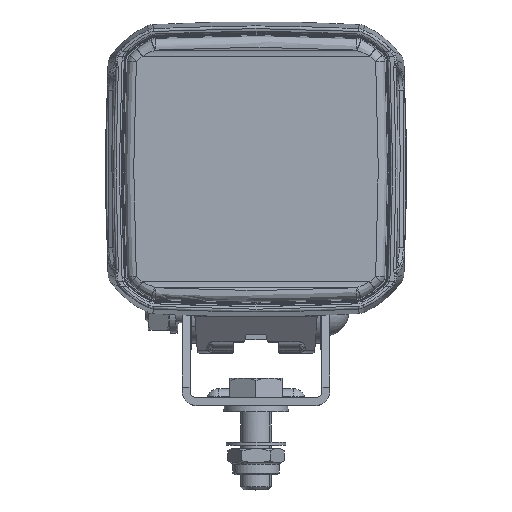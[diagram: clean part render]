
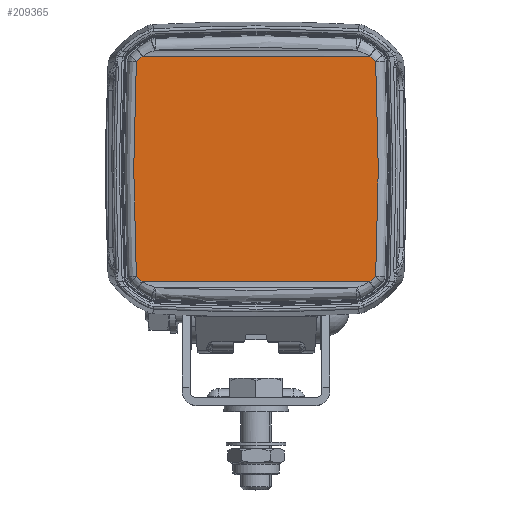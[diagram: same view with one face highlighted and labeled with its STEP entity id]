
A CAD part, top view. The second image highlights one B-rep face of the part: STEP entity #209365.
In plain terms, the highlighted free-form (B-spline) face has degree [1, 1] with [2, 2] control points.
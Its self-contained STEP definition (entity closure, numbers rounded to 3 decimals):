
#209127=VERTEX_POINT('',#209126) ;
#209200=VERTEX_POINT('',#209199) ;
#209231=VERTEX_POINT('',#209230) ;
#209233=VERTEX_POINT('',#209232) ;
#209241=VERTEX_POINT('',#209240) ;
#209249=VERTEX_POINT('',#209248) ;
#209277=VERTEX_POINT('',#209276) ;
#209285=VERTEX_POINT('',#209284) ;
#209299=VERTEX_POINT('',#209298) ;
#209307=VERTEX_POINT('',#209306) ;
#209335=VERTEX_POINT('',#209334) ;
#209343=VERTEX_POINT('',#209342) ;
#209204=VECTOR('Line Direction',#209203,1.) ;
#209203=DIRECTION('Vector Direction',(1.,0.,0.)) ;
#209126=CARTESIAN_POINT('Vertex',(-37.106,-36.71,19.)) ;
#209199=CARTESIAN_POINT('Vertex',(37.106,-36.71,19.)) ;
#209202=CARTESIAN_POINT('Line Origine',(0.,-36.71,19.)) ;
#209223=CARTESIAN_POINT('Control Point',(-39.976,36.71,19.)) ;
#209224=CARTESIAN_POINT('Control Point',(39.976,36.71,19.)) ;
#209225=CARTESIAN_POINT('Control Point',(-39.976,-36.71,19.)) ;
#209226=CARTESIAN_POINT('Control Point',(39.976,-36.71,19.)) ;
#209228=CARTESIAN_POINT('Control Point',(-37.106,36.71,19.)) ;
#209229=CARTESIAN_POINT('Control Point',(37.106,36.71,19.)) ;
#209230=CARTESIAN_POINT('Vertex',(-37.106,36.71,19.)) ;
#209232=CARTESIAN_POINT('Vertex',(37.106,36.71,19.)) ;
#209236=CARTESIAN_POINT('Control Point',(-37.106,36.71,19.)) ;
#209237=CARTESIAN_POINT('Control Point',(-37.749,36.179,19.)) ;
#209238=CARTESIAN_POINT('Control Point',(-38.369,35.606,19.)) ;
#209239=CARTESIAN_POINT('Control Point',(-38.959,34.996,19.)) ;
#209240=CARTESIAN_POINT('Vertex',(-38.959,34.996,19.)) ;
#209244=CARTESIAN_POINT('Control Point',(-38.973,34.964,19.)) ;
#209245=CARTESIAN_POINT('Control Point',(-38.973,34.976,19.)) ;
#209246=CARTESIAN_POINT('Control Point',(-38.968,34.988,19.)) ;
#209247=CARTESIAN_POINT('Control Point',(-38.959,34.996,19.)) ;
#209248=CARTESIAN_POINT('Vertex',(-38.973,34.964,19.)) ;
#209252=CARTESIAN_POINT('Control Point',(-38.973,-34.964,19.)) ;
#209253=CARTESIAN_POINT('Control Point',(-39.057,-33.25,19.)) ;
#209254=CARTESIAN_POINT('Control Point',(-39.134,-31.584,19.)) ;
#209255=CARTESIAN_POINT('Control Point',(-39.205,-29.924,19.)) ;
#209256=CARTESIAN_POINT('Control Point',(-39.313,-27.249,19.)) ;
#209257=CARTESIAN_POINT('Control Point',(-39.409,-24.531,19.)) ;
#209258=CARTESIAN_POINT('Control Point',(-39.443,-23.508,19.)) ;
#209259=CARTESIAN_POINT('Control Point',(-39.509,-21.454,19.)) ;
#209260=CARTESIAN_POINT('Control Point',(-39.567,-19.399,19.)) ;
#209261=CARTESIAN_POINT('Control Point',(-39.594,-18.371,19.)) ;
#209262=CARTESIAN_POINT('Control Point',(-39.746,-12.205,19.)) ;
#209263=CARTESIAN_POINT('Control Point',(-39.831,-6.038,19.)) ;
#209264=CARTESIAN_POINT('Control Point',(-39.856,-0.909,19.)) ;
#209265=CARTESIAN_POINT('Control Point',(-39.82,7.808,19.)) ;
#209266=CARTESIAN_POINT('Control Point',(-39.652,16.516,19.)) ;
#209267=CARTESIAN_POINT('Control Point',(-39.56,20.112,19.)) ;
#209268=CARTESIAN_POINT('Control Point',(-39.428,24.229,19.)) ;
#209269=CARTESIAN_POINT('Control Point',(-39.266,28.362,19.)) ;
#209270=CARTESIAN_POINT('Control Point',(-39.248,28.817,19.)) ;
#209271=CARTESIAN_POINT('Control Point',(-39.186,30.345,19.)) ;
#209272=CARTESIAN_POINT('Control Point',(-39.119,31.876,19.)) ;
#209273=CARTESIAN_POINT('Control Point',(-39.072,32.905,19.)) ;
#209274=CARTESIAN_POINT('Control Point',(-39.024,33.937,19.)) ;
#209275=CARTESIAN_POINT('Control Point',(-38.973,34.964,19.)) ;
#209276=CARTESIAN_POINT('Vertex',(-38.973,-34.964,19.)) ;
#209280=CARTESIAN_POINT('Control Point',(-38.973,-34.964,19.)) ;
#209281=CARTESIAN_POINT('Control Point',(-38.973,-34.976,19.)) ;
#209282=CARTESIAN_POINT('Control Point',(-38.968,-34.988,19.)) ;
#209283=CARTESIAN_POINT('Control Point',(-38.959,-34.996,19.)) ;
#209284=CARTESIAN_POINT('Vertex',(-38.959,-34.996,19.)) ;
#209288=CARTESIAN_POINT('Control Point',(-37.106,-36.71,19.)) ;
#209289=CARTESIAN_POINT('Control Point',(-37.749,-36.179,19.)) ;
#209290=CARTESIAN_POINT('Control Point',(-38.369,-35.606,19.)) ;
#209291=CARTESIAN_POINT('Control Point',(-38.959,-34.996,19.)) ;
#209294=CARTESIAN_POINT('Control Point',(37.106,-36.71,19.)) ;
#209295=CARTESIAN_POINT('Control Point',(37.749,-36.179,19.)) ;
#209296=CARTESIAN_POINT('Control Point',(38.369,-35.606,19.)) ;
#209297=CARTESIAN_POINT('Control Point',(38.959,-34.996,19.)) ;
#209298=CARTESIAN_POINT('Vertex',(38.959,-34.996,19.)) ;
#209302=CARTESIAN_POINT('Control Point',(38.973,-34.964,19.)) ;
#209303=CARTESIAN_POINT('Control Point',(38.973,-34.976,19.)) ;
#209304=CARTESIAN_POINT('Control Point',(38.968,-34.988,19.)) ;
#209305=CARTESIAN_POINT('Control Point',(38.959,-34.996,19.)) ;
#209306=CARTESIAN_POINT('Vertex',(38.973,-34.964,19.)) ;
#209310=CARTESIAN_POINT('Control Point',(38.973,34.964,19.)) ;
#209311=CARTESIAN_POINT('Control Point',(39.057,33.25,19.)) ;
#209312=CARTESIAN_POINT('Control Point',(39.134,31.583,19.)) ;
#209313=CARTESIAN_POINT('Control Point',(39.205,29.924,19.)) ;
#209314=CARTESIAN_POINT('Control Point',(39.313,27.249,19.)) ;
#209315=CARTESIAN_POINT('Control Point',(39.409,24.53,19.)) ;
#209316=CARTESIAN_POINT('Control Point',(39.443,23.508,19.)) ;
#209317=CARTESIAN_POINT('Control Point',(39.509,21.454,19.)) ;
#209318=CARTESIAN_POINT('Control Point',(39.567,19.399,19.)) ;
#209319=CARTESIAN_POINT('Control Point',(39.594,18.371,19.)) ;
#209320=CARTESIAN_POINT('Control Point',(39.746,12.203,19.)) ;
#209321=CARTESIAN_POINT('Control Point',(39.831,6.035,19.)) ;
#209322=CARTESIAN_POINT('Control Point',(39.856,0.905,19.)) ;
#209323=CARTESIAN_POINT('Control Point',(39.82,-7.812,19.)) ;
#209324=CARTESIAN_POINT('Control Point',(39.652,-16.519,19.)) ;
#209325=CARTESIAN_POINT('Control Point',(39.56,-20.114,19.)) ;
#209326=CARTESIAN_POINT('Control Point',(39.428,-24.231,19.)) ;
#209327=CARTESIAN_POINT('Control Point',(39.266,-28.363,19.)) ;
#209328=CARTESIAN_POINT('Control Point',(39.248,-28.817,19.)) ;
#209329=CARTESIAN_POINT('Control Point',(39.186,-30.347,19.)) ;
#209330=CARTESIAN_POINT('Control Point',(39.119,-31.88,19.)) ;
#209331=CARTESIAN_POINT('Control Point',(39.072,-32.904,19.)) ;
#209332=CARTESIAN_POINT('Control Point',(39.024,-33.936,19.)) ;
#209333=CARTESIAN_POINT('Control Point',(38.973,-34.964,19.)) ;
#209334=CARTESIAN_POINT('Vertex',(38.973,34.964,19.)) ;
#209338=CARTESIAN_POINT('Control Point',(38.973,34.964,19.)) ;
#209339=CARTESIAN_POINT('Control Point',(38.973,34.976,19.)) ;
#209340=CARTESIAN_POINT('Control Point',(38.968,34.988,19.)) ;
#209341=CARTESIAN_POINT('Control Point',(38.959,34.996,19.)) ;
#209342=CARTESIAN_POINT('Vertex',(38.959,34.996,19.)) ;
#209346=CARTESIAN_POINT('Control Point',(37.106,36.71,19.)) ;
#209347=CARTESIAN_POINT('Control Point',(37.749,36.179,19.)) ;
#209348=CARTESIAN_POINT('Control Point',(38.369,35.606,19.)) ;
#209349=CARTESIAN_POINT('Control Point',(38.959,34.996,19.)) ;
#209205=LINE('Line',#209202,#209204) ;
#209206=EDGE_CURVE('',#209127,#209200,#209205,.T.) ;
#209234=EDGE_CURVE('',#209231,#209233,#209227,.T.) ;
#209242=EDGE_CURVE('',#209231,#209241,#209235,.T.) ;
#209250=EDGE_CURVE('',#209241,#209249,#209243,.F.) ;
#209278=EDGE_CURVE('',#209249,#209277,#209251,.F.) ;
#209286=EDGE_CURVE('',#209277,#209285,#209279,.T.) ;
#209292=EDGE_CURVE('',#209285,#209127,#209287,.F.) ;
#209300=EDGE_CURVE('',#209200,#209299,#209293,.T.) ;
#209308=EDGE_CURVE('',#209299,#209307,#209301,.F.) ;
#209336=EDGE_CURVE('',#209307,#209335,#209309,.F.) ;
#209344=EDGE_CURVE('',#209335,#209343,#209337,.T.) ;
#209350=EDGE_CURVE('',#209343,#209233,#209345,.F.) ;
#209352=ORIENTED_EDGE('',*,*,#209234,.F.) ;
#209353=ORIENTED_EDGE('',*,*,#209242,.T.) ;
#209354=ORIENTED_EDGE('',*,*,#209250,.T.) ;
#209355=ORIENTED_EDGE('',*,*,#209278,.T.) ;
#209356=ORIENTED_EDGE('',*,*,#209286,.T.) ;
#209357=ORIENTED_EDGE('',*,*,#209292,.T.) ;
#209358=ORIENTED_EDGE('',*,*,#209206,.T.) ;
#209359=ORIENTED_EDGE('',*,*,#209300,.T.) ;
#209360=ORIENTED_EDGE('',*,*,#209308,.T.) ;
#209361=ORIENTED_EDGE('',*,*,#209336,.T.) ;
#209362=ORIENTED_EDGE('',*,*,#209344,.T.) ;
#209363=ORIENTED_EDGE('',*,*,#209350,.T.) ;
#209351=EDGE_LOOP('',(#209352,#209353,#209354,#209355,#209356,#209357,#209358,#209359,#209360,#209361,#209362,#209363)) ;
#209365=ADVANCED_FACE('Housing_GR',(#209364),#209222,.T.) ;
#209227=B_SPLINE_CURVE_WITH_KNOTS('',1,(#209228,#209229),.UNSPECIFIED.,.F.,.U.,(2,2),(52.894,127.106),.UNIFORM_KNOTS.) ;
#209235=B_SPLINE_CURVE_WITH_KNOTS('',3,(#209236,#209237,#209238,#209239),.UNSPECIFIED.,.F.,.U.,(4,4),(3.587,9.27),.UNIFORM_KNOTS.) ;
#209243=B_SPLINE_CURVE_WITH_KNOTS('',3,(#209244,#209245,#209246,#209247),.UNSPECIFIED.,.F.,.U.,(4,4),(0.6,3.601),.UNIFORM_KNOTS.) ;
#209251=B_SPLINE_CURVE_WITH_KNOTS('',5,(#209252,#209253,#209254,#209255,#209256,#209257,#209258,#209259,#209260,#209261,#209262,#209263,#209264,#209265,#209266,#209267,#209268,#209269,#209270,#209271,#209272,#209273,#209274,#209275),.UNSPECIFIED.,.F.,.U.,(6,3,3,3,3,3,3,6),(32.348,49.849,60.298,70.747,122.983,159.713,164.974,175.219),.UNIFORM_KNOTS.) ;
#209279=B_SPLINE_CURVE_WITH_KNOTS('',3,(#209280,#209281,#209282,#209283),.UNSPECIFIED.,.F.,.U.,(4,4),(0.6,3.601),.UNIFORM_KNOTS.) ;
#209287=B_SPLINE_CURVE_WITH_KNOTS('',3,(#209288,#209289,#209290,#209291),.UNSPECIFIED.,.F.,.U.,(4,4),(3.587,9.269),.UNIFORM_KNOTS.) ;
#209293=B_SPLINE_CURVE_WITH_KNOTS('',3,(#209294,#209295,#209296,#209297),.UNSPECIFIED.,.F.,.U.,(4,4),(3.587,9.27),.UNIFORM_KNOTS.) ;
#209301=B_SPLINE_CURVE_WITH_KNOTS('',3,(#209302,#209303,#209304,#209305),.UNSPECIFIED.,.F.,.U.,(4,4),(0.6,3.601),.UNIFORM_KNOTS.) ;
#209309=B_SPLINE_CURVE_WITH_KNOTS('',5,(#209310,#209311,#209312,#209313,#209314,#209315,#209316,#209317,#209318,#209319,#209320,#209321,#209322,#209323,#209324,#209325,#209326,#209327,#209328,#209329,#209330,#209331,#209332,#209333),.UNSPECIFIED.,.F.,.U.,(6,3,3,3,3,3,3,6),(31.484,48.992,59.441,69.89,122.136,158.856,164.118,174.382),.UNIFORM_KNOTS.) ;
#209337=B_SPLINE_CURVE_WITH_KNOTS('',3,(#209338,#209339,#209340,#209341),.UNSPECIFIED.,.F.,.U.,(4,4),(0.6,3.601),.UNIFORM_KNOTS.) ;
#209345=B_SPLINE_CURVE_WITH_KNOTS('',3,(#209346,#209347,#209348,#209349),.UNSPECIFIED.,.F.,.U.,(4,4),(3.587,9.269),.UNIFORM_KNOTS.) ;
#209222=B_SPLINE_SURFACE_WITH_KNOTS('',1,1,((#209223,#209224),(#209225,#209226)),.TOROIDAL_SURF.,.F.,.F.,.U.,(2,2),(2,2),(0.79,74.21),(50.024,129.976),.UNIFORM_KNOTS.) ;
#209364=FACE_OUTER_BOUND('',#209351,.T.) ;
